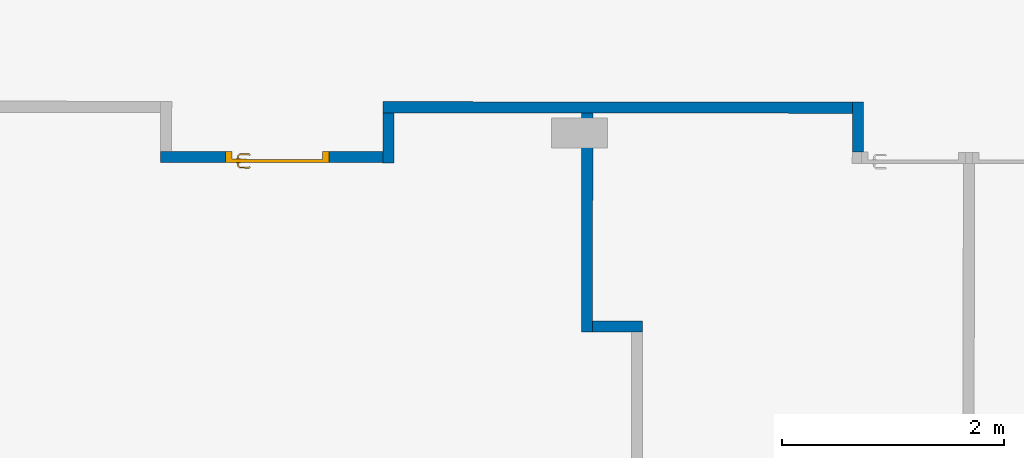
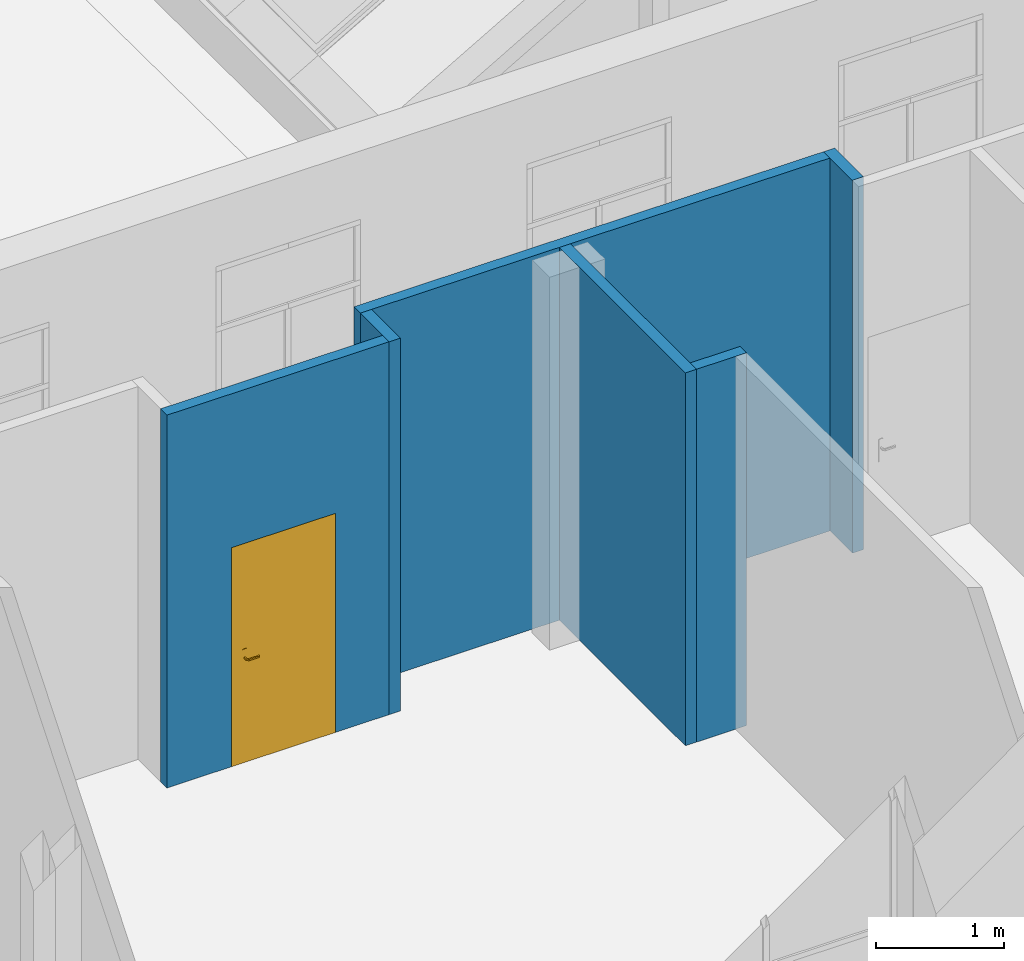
# One storey, part 55 of 101: 6 walls, 1 door, 1 opening.
"""IFC2X3 building model written with IfcOpenShell, lengths in metres."""

from ifc_helpers import new_model, entity, si_unit, converted_unit, derived_unit, direction, frame, frame_2d, origin, place, context, subcontext, project, spatial, rectangle, extrude, faceted_brep, source, transform, mapped, material, material_list, layer, layer_set, layer_usage, type_object, type_shapes, element, fill, save


model = new_model("IFC2X3")

# Units and contexts
model_context = context("Model", 3, precision=1e-05, world=origin(), true_north=direction((6.123233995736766e-17, 1.0)))
body_context = subcontext(model_context, "Body", "Model", "MODEL_VIEW")
ifc_project = project(units=[si_unit("LENGTHUNIT", "METRE"), si_unit("AREAUNIT", "SQUARE_METRE"), converted_unit("PLANEANGLEUNIT", "DEGREE", entity("IfcPlaneAngleMeasure", 0.017453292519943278), si_unit("PLANEANGLEUNIT", "RADIAN"), dimensions=[0, 0, 0, 0, 0, 0, 0]), derived_unit("THERMALTRANSMITTANCEUNIT", [(si_unit("MASSUNIT", "GRAM", prefix="KILO"), 1), (si_unit("THERMODYNAMICTEMPERATUREUNIT", "KELVIN"), -1), (si_unit("TIMEUNIT", "SECOND"), -3)])], contexts=[model_context])

# Site, building, storey
site_placement = place(None, frame((1253.6752467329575, 2072.143113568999, 91.49999999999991), z_axis=(0.0, 0.0, 1.0), x_axis=(0.7237211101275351, 0.6900925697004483, 0.0)))
site = spatial("IfcSite", under=ifc_project, at=site_placement, Name="Surface", CompositionType="ELEMENT")
building_placement = place(site_placement, origin())
building = spatial("IfcBuilding", under=site, at=building_placement, CompositionType="ELEMENT")
storey_placement = place(building_placement, origin())
storey = spatial("IfcBuildingStorey", under=building, at=storey_placement, Name="0- Rdc", CompositionType="ELEMENT", Elevation=-5.764692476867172e-13)

# Walls
ifc_material_1 = material(Name="OMD_Béton blanc")
ifc_layer = layer(ifc_material_1, 0.1)
ifc_layer_set = layer_set([ifc_layer], Name="Mur de base:MUR 10")
ifc_layer_usage_1 = layer_usage(ifc_layer_set, "AXIS2", "NEGATIVE", 0.05)
wall_type = type_object("IfcWallType", Name="Mur de base:MUR 10", PredefinedType="STANDARD", material=ifc_layer_set)
wall_1_placement = place(storey_placement, frame((164.96329003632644, -6.560793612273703, 0.0), z_axis=(0.0, 0.0, 1.0), x_axis=(-0.6909838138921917, -0.7228702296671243, 0.0)))
element("IfcWallStandardCase", 1, at=wall_1_placement, inside=storey, type_object=wall_type, material=ifc_layer_usage_1, Name="Mur de base:MUR 10", ObjectType="Mur de base:MUR 10", context=body_context, shape_type="SweptSolid", body=[
    extrude(rectangle(XDim=0.4499999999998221, YDim=0.10000000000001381, at=frame_2d((0.22499999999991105, 2.2169766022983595e-15), x_axis=(-1.0, 0.0))), origin(), (0.0, 0.0, 1.0), 3.5499999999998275),
])
ifc_layer_usage_2 = layer_usage(ifc_layer_set, "AXIS2", "NEGATIVE", 0.05)
wall_2_placement = place(storey_placement, frame((161.83847061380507, -3.6429813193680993, 0.0), z_axis=(0.0, 0.0, 1.0), x_axis=(0.7228702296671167, -0.6909838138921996, 0.0)))
element("IfcWallStandardCase", 2, at=wall_2_placement, inside=storey, type_object=wall_type, material=ifc_layer_usage_2, Name="Mur de base:MUR 10", ObjectType="Mur de base:MUR 10", context=body_context, shape_type="SweptSolid", body=[
    extrude(rectangle(XDim=4.2249999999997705, YDim=0.10000000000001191, at=frame_2d((2.1124999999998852, 6.036837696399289e-16), x_axis=(-1.0, 0.0))), origin(), (0.0, 0.0, 1.0), 3.5499999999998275),
])
ifc_layer_usage_3 = layer_usage(ifc_layer_set, "AXIS2", "NEGATIVE", 0.05)
wall_3_placement = place(storey_placement, frame((161.84006493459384, -3.7136740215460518, 0.0), z_axis=(0.0, 0.0, 1.0), x_axis=(-0.6909838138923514, -0.7228702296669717, 0.0)))
element("IfcWallStandardCase", 3, at=wall_3_placement, inside=storey, type_object=wall_type, material=ifc_layer_usage_3, Name="Mur de base:MUR 10", ObjectType="Mur de base:MUR 10", context=body_context, shape_type="SweptSolid", body=[
    extrude(rectangle(XDim=0.44999999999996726, YDim=0.10000000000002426, at=frame_2d((0.22499999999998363, 1.457167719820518e-15), x_axis=(-1.0, 0.0))), origin(), (0.0, 0.0, 1.0), 3.5499999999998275),
])

# Wall, opening, door
ifc_layer_usage_4 = layer_usage(ifc_layer_set, "AXIS2", "NEGATIVE", 0.05)
wall_4_placement = place(storey_placement, frame((161.5275278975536, -3.9682729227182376, 0.0), z_axis=(0.0, 0.0, 1.0), x_axis=(-0.7228702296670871, 0.6909838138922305, 0.0)))
wall_4 = element("IfcWallStandardCase", 4, at=wall_4_placement, inside=storey, type_object=wall_type, material=ifc_layer_usage_4, Name="Mur de base:MUR 10", ObjectType="Mur de base:MUR 10", context=body_context, shape_type="SweptSolid", body=[
    extrude(rectangle(XDim=2.0000000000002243, YDim=0.10000000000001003, at=frame_2d((1.0000000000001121, 6.522560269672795e-16), x_axis=(-1.0, 0.0))), origin(), (0.0, 0.0, 1.0), 3.5499999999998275),
])
opening_placement = place(wall_4_placement, frame((0.48250000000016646, -0.050000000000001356, 0.0)))
opening = element("IfcOpeningElement", 5, at=opening_placement, cuts=wall_4, Name="OMD_Porte 1V tunnel:80x204:1", ObjectType="Opening", context=body_context, shape_type="SweptSolid", body=[
    extrude(rectangle(XDim=2.0850000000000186, YDim=0.9349999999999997, at=frame_2d((1.0425000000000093, 0.46749999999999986), x_axis=(1.0, 0.0))), frame((0.0, 0.0, 0.0), z_axis=(0.0, 1.0, 0.0), x_axis=(0.0, 0.0, 1.0)), (0.0, 0.0, 1.0), 0.1),
])
ifc_material_2 = material(Name="Porte - Poignée")
ifc_material_3 = material(Name="OMD_Peinture mur")
ifc_material_4 = material(Name="OMD_Bois")
ifc_material_list = material_list([ifc_material_2, ifc_material_3, ifc_material_4])
door_style = type_object("IfcDoorStyle", Name="OMD_Porte 1V tunnel:80x204", ConstructionType="NOTDEFINED", OperationType="NOTDEFINED", ParameterTakesPrecedence=False, Sizeable=False, material=ifc_material_list)
shared_shape = source(origin(), body_context, "Body", "Brep", [
    faceted_brep([(0.21297470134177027, 0.03500000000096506, 1.0077804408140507), (0.20900000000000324, 0.03500000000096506, 1.0069999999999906), (0.208999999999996, 0.03500000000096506, 0.9929999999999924), (0.21297470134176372, 0.03500000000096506, 0.9922195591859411), (0.21702529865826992, 0.03500000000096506, 0.9922195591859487), (0.22100000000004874, 0.03500000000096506, 0.9930000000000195), (0.22100000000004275, 0.03500000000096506, 1.0069999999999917), (0.2170252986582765, 0.03500000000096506, 1.007780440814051), (0.22100000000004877, 0.05748520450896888, 0.9930000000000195), (0.22100000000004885, 0.057485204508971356, 1.0069999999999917), (0.21702529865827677, 0.059131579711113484, 1.007780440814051), (0.23083890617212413, 0.07294518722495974, 1.007780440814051), (0.2291610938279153, 0.07699578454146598, 1.0077804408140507), (0.21297470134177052, 0.060809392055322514, 1.0077804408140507), (0.3206847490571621, 0.0664673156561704, 1.0077804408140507), (0.32354895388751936, 0.06933152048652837, 1.0077804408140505), (0.31588468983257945, 0.07699578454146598, 1.0077804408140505), (0.31420687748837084, 0.07294518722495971, 1.0077804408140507), (0.20900000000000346, 0.06245576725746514, 1.0069999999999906), (0.20900000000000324, 0.06245576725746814, 0.9929999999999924), (0.21297470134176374, 0.06080939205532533, 0.9922195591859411), (0.22916109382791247, 0.07699578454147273, 0.9922195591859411), (0.23083890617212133, 0.07294518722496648, 0.9922195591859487), (0.21702529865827, 0.05913157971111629, 0.9922195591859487), (0.32354895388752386, 0.06933152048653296, 0.9922195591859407), (0.3206847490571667, 0.06646731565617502, 0.9922195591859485), (0.3142068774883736, 0.07294518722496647, 0.9922195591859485), (0.3158846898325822, 0.07699578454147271, 0.9922195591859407), (0.23248528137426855, 0.0689704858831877, 0.9930000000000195), (0.23248528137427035, 0.06897048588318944, 1.0069999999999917), (0.22751471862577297, 0.0809704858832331, 1.0069999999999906), (0.22751471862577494, 0.08097048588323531, 0.9929999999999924), (0.2725228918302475, 0.06897048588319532, 0.9930000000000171), (0.3125605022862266, 0.06897048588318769, 0.9930000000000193), (0.31256050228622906, 0.06897048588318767, 1.0069999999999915), (0.2725228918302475, 0.0689704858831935, 1.0069999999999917), (0.2725228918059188, 0.07512492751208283, 1.0078781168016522), (0.31753106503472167, 0.08097048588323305, 1.0069999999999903), (0.2776005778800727, 0.08097048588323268, 1.0069999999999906), (0.31753106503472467, 0.08097048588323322, 0.9929999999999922), (0.2674452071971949, 0.08097048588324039, 0.9929999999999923), (0.2725228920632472, 0.07512492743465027, 0.9921218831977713), (0.317874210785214, 0.06365677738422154, 0.9930000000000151), (0.32635949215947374, 0.07214205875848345, 0.99299999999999), (0.3263594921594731, 0.07214205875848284, 1.0069999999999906), (0.317874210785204, 0.06365677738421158, 1.0069999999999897)], [[[0, 1, 2, 3, 4, 5, 6, 7]], [[6, 5, 8, 9]], [[9, 10, 7, 6]], [[10, 11, 12, 13, 0, 7]], [[14, 15, 16, 17]], [[13, 18, 1, 0]], [[2, 1, 18, 19]], [[19, 20, 3, 2]], [[20, 21, 22, 23, 4, 3]], [[24, 25, 26, 27]], [[23, 8, 5, 4]], [[9, 8, 28, 29]], [[29, 11, 10, 9]], [[12, 30, 18, 13]], [[19, 18, 30, 31]], [[31, 21, 20, 19]], [[22, 28, 8, 23]], [[29, 28, 32, 33, 34, 35]], [[11, 35, 36]], [[16, 37, 38]], [[30, 12, 38]], [[38, 12, 36]], [[36, 35, 17]], [[17, 16, 36]], [[35, 11, 29]], [[34, 17, 35]], [[11, 36, 12]], [[38, 36, 16]], [[31, 30, 38, 37, 39, 40]], [[40, 41, 21]], [[41, 40, 27]], [[21, 31, 40]], [[39, 27, 40]], [[41, 32, 22]], [[22, 21, 41]], [[26, 32, 41]], [[28, 22, 32]], [[32, 26, 33]], [[26, 41, 27]], [[42, 25, 24, 43, 44, 15, 14, 45]], [[34, 33, 42, 45]], [[45, 14, 17, 34]], [[15, 44, 37, 16]], [[39, 37, 44, 43]], [[43, 24, 27, 39]], [[25, 42, 33, 26]]]),
    faceted_brep([(0.21297470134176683, -0.004999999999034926, 1.0077804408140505), (0.2170252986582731, -0.004999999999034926, 1.007780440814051), (0.2210000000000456, -0.004999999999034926, 1.006999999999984), (0.22100000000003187, -0.004999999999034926, 0.9930000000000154), (0.21702529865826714, -0.004999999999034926, 0.9922195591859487), (0.21297470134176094, -0.004999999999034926, 0.992219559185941), (0.20900000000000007, -0.004999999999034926, 0.992999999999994), (0.20900000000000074, -0.004999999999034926, 1.0069999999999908), (0.20900000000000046, -0.03265095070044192, 1.0069999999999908), (0.21297470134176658, -0.03100457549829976, 1.0077804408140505), (0.22902358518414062, -0.04705345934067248, 1.0077804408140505), (0.2307013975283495, -0.04300286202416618, 1.007780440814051), (0.21702529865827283, -0.02932676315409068, 1.007780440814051), (0.3235218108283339, -0.039389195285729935, 1.0077804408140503), (0.3206576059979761, -0.03652499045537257, 1.0077804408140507), (0.3141797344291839, -0.04300286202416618, 1.0077804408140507), (0.31585754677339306, -0.04705345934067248, 1.0077804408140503), (0.22100000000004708, -0.027680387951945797, 1.0069999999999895), (0.22100000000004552, -0.02768038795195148, 0.9930000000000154), (0.21702529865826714, -0.029326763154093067, 0.9922195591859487), (0.23070139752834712, -0.04300286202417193, 0.9922195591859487), (0.2290235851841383, -0.0470534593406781, 0.992219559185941), (0.21297470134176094, -0.031004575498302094, 0.992219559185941), (0.32065760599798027, -0.036524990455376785, 0.9922195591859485), (0.3235218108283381, -0.03938919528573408, 0.9922195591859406), (0.31585754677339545, -0.047053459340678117, 0.9922195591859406), (0.3141797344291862, -0.04300286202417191, 0.9922195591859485), (0.20899999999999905, -0.032650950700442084, 0.9929999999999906), (0.22737720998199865, -0.051028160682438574, 1.0069999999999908), (0.23234777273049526, -0.03902816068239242, 1.0069999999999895), (0.23234777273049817, -0.03902816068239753, 0.9930000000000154), (0.22737720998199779, -0.051028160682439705, 0.9929999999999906), (0.2673076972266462, -0.05102816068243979, 1.0069999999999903), (0.272440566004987, -0.0451828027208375, 1.0078781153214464), (0.3175039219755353, -0.05102816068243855, 1.0069999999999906), (0.27244056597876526, -0.039028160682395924, 1.0069999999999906), (0.3125333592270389, -0.03902816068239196, 1.0069999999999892), (0.31253335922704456, -0.03902816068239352, 0.9930000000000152), (0.27244056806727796, -0.03902816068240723, 0.9930000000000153), (0.27244056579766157, -0.04518280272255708, 0.9921218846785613), (0.3175039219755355, -0.051028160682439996, 0.9929999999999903), (0.27757344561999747, -0.051028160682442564, 0.9929999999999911), (0.3178470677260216, -0.03371445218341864, 1.0069999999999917), (0.3263323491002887, -0.04219973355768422, 1.0069999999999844), (0.3263323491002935, -0.04219973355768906, 0.9929999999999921), (0.31784706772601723, -0.033714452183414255, 0.9930000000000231)], [[[0, 1, 2, 3, 4, 5, 6, 7]], [[8, 9, 0, 7]], [[9, 10, 11, 12, 1, 0]], [[13, 14, 15, 16]], [[12, 17, 2, 1]], [[3, 2, 17, 18]], [[18, 19, 4, 3]], [[19, 20, 21, 22, 5, 4]], [[23, 24, 25, 26]], [[22, 27, 6, 5]], [[7, 6, 27, 8]], [[28, 10, 9, 8]], [[11, 29, 17, 12]], [[18, 17, 29, 30]], [[30, 20, 19, 18]], [[21, 31, 27, 22]], [[8, 27, 31, 28]], [[32, 33, 10]], [[33, 32, 16]], [[10, 28, 32]], [[34, 16, 32]], [[33, 35, 11]], [[11, 10, 33]], [[15, 35, 33]], [[29, 11, 35]], [[35, 15, 36]], [[15, 33, 16]], [[30, 29, 35, 36, 37, 38]], [[20, 38, 39]], [[25, 40, 41]], [[31, 21, 41]], [[41, 21, 39]], [[39, 38, 26]], [[26, 25, 39]], [[38, 20, 30]], [[37, 26, 38]], [[20, 39, 21]], [[41, 39, 25]], [[28, 31, 41, 40, 34, 32]], [[42, 14, 13, 43, 44, 24, 23, 45]], [[43, 13, 16, 34]], [[14, 42, 36, 15]], [[37, 36, 42, 45]], [[45, 23, 26, 37]], [[24, 44, 40, 25]], [[34, 40, 44, 43]]]),
    faceted_brep([(0.22535276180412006, 0.030000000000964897, 0.8660039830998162), (0.2350000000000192, 0.030000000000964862, 0.8700000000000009), (0.2350000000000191, 0.030000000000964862, 1.0800000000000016), (0.2253527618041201, 0.030000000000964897, 1.0839960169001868), (0.21500000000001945, 0.030000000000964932, 1.0853589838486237), (0.20464723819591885, 0.03000000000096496, 1.0839960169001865), (0.19500000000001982, 0.030000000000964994, 1.0800000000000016), (0.19500000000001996, 0.030000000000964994, 0.8700000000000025), (0.20464723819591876, 0.03000000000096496, 0.866003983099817), (0.21500000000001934, 0.030000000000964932, 0.8646410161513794), (0.22535276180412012, 0.0350000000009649, 1.0839960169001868), (0.2350000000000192, 0.03500000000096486, 1.0800000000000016), (0.23500000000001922, 0.03500000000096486, 0.8700000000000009), (0.22535276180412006, 0.0350000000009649, 0.8660039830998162), (0.21500000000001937, 0.03500000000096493, 0.8646410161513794), (0.20464723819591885, 0.03500000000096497, 0.866003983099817), (0.19500000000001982, 0.035000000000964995, 0.8700000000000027), (0.19500000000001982, 0.035000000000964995, 1.0800000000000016), (0.20464723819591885, 0.03500000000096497, 1.0839960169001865), (0.21500000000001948, 0.03500000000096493, 1.0853589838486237)], [[[0, 1, 2, 3, 4, 5, 6, 7, 8, 9]], [[10, 11, 12, 13, 14, 15, 16, 17, 18, 19]], [[11, 10, 3, 2]], [[3, 10, 19, 4]], [[19, 18, 5, 4]], [[18, 17, 6, 5]], [[7, 6, 17, 16]], [[16, 15, 8, 7]], [[8, 15, 14, 9]], [[14, 13, 0, 9]], [[13, 12, 1, 0]], [[2, 1, 12, 11]]]),
    faceted_brep([(0.22535276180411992, -0.004999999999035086, 0.8660039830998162), (0.2350000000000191, -0.004999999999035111, 0.8700000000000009), (0.23500000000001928, -0.004999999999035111, 1.0800000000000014), (0.22535276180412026, -0.004999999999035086, 1.0839960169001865), (0.2150000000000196, -0.004999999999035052, 1.0853589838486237), (0.20464723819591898, -0.0049999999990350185, 1.0839960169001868), (0.19500000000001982, -0.004999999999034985, 1.0800000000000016), (0.19500000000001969, -0.004999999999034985, 0.8700000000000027), (0.20464723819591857, -0.0049999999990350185, 0.8660039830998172), (0.21500000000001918, -0.004999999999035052, 0.8646410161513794), (0.22535276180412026, 0.0, 1.0839960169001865), (0.2350000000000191, 0.0, 1.0800000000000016), (0.2350000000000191, 0.0, 0.8700000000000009), (0.22535276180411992, 0.0, 0.8660039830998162), (0.21500000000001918, 0.0, 0.8646410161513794), (0.20464723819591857, 0.0, 0.8660039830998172), (0.19500000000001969, 0.0, 0.8700000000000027), (0.19500000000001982, 0.0, 1.0800000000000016), (0.20464723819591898, 0.0, 1.0839960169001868), (0.2150000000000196, 0.0, 1.0853589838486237)], [[[0, 1, 2, 3, 4, 5, 6, 7, 8, 9]], [[10, 11, 12, 13, 14, 15, 16, 17, 18, 19]], [[16, 15, 8, 7]], [[8, 15, 14, 9]], [[14, 13, 0, 9]], [[13, 12, 1, 0]], [[2, 1, 12, 11]], [[11, 10, 3, 2]], [[3, 10, 19, 4]], [[19, 18, 5, 4]], [[18, 17, 6, 5]], [[7, 6, 17, 16]]]),
    faceted_brep([(0.14500000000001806, 0.030000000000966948, 0.0), (0.9900000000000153, 0.030000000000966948, 0.0), (0.9900000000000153, 0.0, 0.0), (0.14500000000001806, 0.0, 0.0), (0.14500000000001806, 0.030000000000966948, 2.04), (0.14500000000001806, 0.0, 2.04), (0.9900000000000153, 0.0, 2.04), (0.9900000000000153, 0.030000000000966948, 2.04)], [[[0, 1, 2, 3]], [[4, 0, 3, 5]], [[5, 3, 2, 6]], [[6, 2, 1, 7]], [[7, 1, 0, 4]], [[4, 5, 6, 7]]]),
    faceted_brep([(0.10000000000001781, 0.0, 0.0), (0.10000000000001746, 0.10000000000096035, 0.0), (0.16000000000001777, 0.10000000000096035, 0.0), (0.16000000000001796, 0.03000000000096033, 0.0), (0.145000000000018, 0.03000000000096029, 0.0), (0.14500000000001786, 0.0, 0.0), (0.145000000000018, 0.0, 2.04), (0.9900000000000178, 0.0, 2.0400000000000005), (0.9900000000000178, 0.0, 0.0), (1.0350000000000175, 0.0, 0.0), (1.0350000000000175, 0.0, 2.085), (0.10000000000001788, 0.0, 2.085), (0.14500000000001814, 0.030000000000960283, 2.04), (0.16000000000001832, 0.03000000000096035, 2.0249999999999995), (0.9750000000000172, 0.03000000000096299, 2.0249999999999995), (0.9750000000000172, 0.03000000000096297, 0.0), (0.9900000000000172, 0.03000000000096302, 0.0), (0.9900000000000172, 0.03000000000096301, 2.0399999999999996), (0.16000000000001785, 0.10000000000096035, 2.0249999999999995), (0.1000000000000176, 0.10000000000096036, 2.085), (1.0350000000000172, 0.10000000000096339, 2.085), (1.0350000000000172, 0.10000000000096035, 0.0), (0.9750000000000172, 0.10000000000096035, 0.0), (0.9750000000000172, 0.10000000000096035, 2.025)], [[[0, 1, 2, 3, 4, 5]], [[5, 6, 7, 8, 9, 10, 11, 0]], [[4, 12, 6, 5]], [[3, 13, 14, 15, 16, 17, 12, 4]], [[2, 18, 13, 3]], [[1, 19, 20, 21, 22, 23, 18, 2]], [[0, 11, 19, 1]], [[10, 9, 21, 20]], [[9, 8, 16, 15, 22, 21]], [[17, 16, 8, 7]], [[23, 22, 15, 14]], [[12, 17, 7, 6]], [[18, 23, 14, 13]], [[11, 10, 20, 19]]]),
])
type_shapes(door_style, [shared_shape])
door_placement = place(opening_placement, frame((1.0349999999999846, 0.09999999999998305, 0.0), z_axis=(0.0, 0.0, 1.0), x_axis=(-1.0, 0.0, 0.0)))
door = element("IfcDoor", 6, at=door_placement, inside=storey, type_object=door_style, material=ifc_material_list, Name="OMD_Porte 1V tunnel:80x204", ObjectType="OMD_Porte 1V tunnel:80x204", OverallHeight=2.0850000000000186, OverallWidth=0.9349999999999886, context=body_context, shape_type="MappedRepresentation", body=[
    mapped(shared_shape, transform((0.0, 0.0, 0.0), scale=1.0)),
])
fill(opening, door)

# Walls
ifc_layer_usage_5 = layer_usage(ifc_layer_set, "AXIS2", "NEGATIVE", 0.05)
wall_5_placement = place(storey_placement, frame((163.13400264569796, -4.950535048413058, 0.0), z_axis=(0.0, 0.0, 1.0), x_axis=(-0.6909838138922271, -0.7228702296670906, 0.0)))
element("IfcWallStandardCase", 7, at=wall_5_placement, inside=storey, type_object=wall_type, material=ifc_layer_usage_5, Name="Mur de base:MUR 10", ObjectType="Mur de base:MUR 10", context=body_context, shape_type="SweptSolid", body=[
    extrude(rectangle(XDim=1.969999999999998, YDim=0.10000000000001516, at=frame_2d((0.984999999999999, 8.465450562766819e-16), x_axis=(-1.0, 0.0))), origin(), (0.0, 0.0, 1.0), 3.5499999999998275),
])
ifc_layer_usage_6 = layer_usage(ifc_layer_set, "AXIS2", "NEGATIVE", 0.05)
wall_6_placement = place(storey_placement, frame((161.84345723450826, -6.3729950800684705, 0.0), z_axis=(0.0, 0.0, 1.0), x_axis=(0.7228702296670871, -0.6909838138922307, 0.0)))
element("IfcWallStandardCase", 8, at=wall_6_placement, inside=storey, type_object=wall_type, material=ifc_layer_usage_6, Name="Mur de base:MUR 10", ObjectType="Mur de base:MUR 10", context=body_context, shape_type="SweptSolid", body=[
    extrude(rectangle(XDim=0.4499999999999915, YDim=0.10000000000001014, at=frame_2d((0.22499999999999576, 9.54097911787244e-16), x_axis=(-1.0, 0.0))), origin(), (0.0, 0.0, 1.0), 3.5499999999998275),
])

save(model, "model.ifc")
